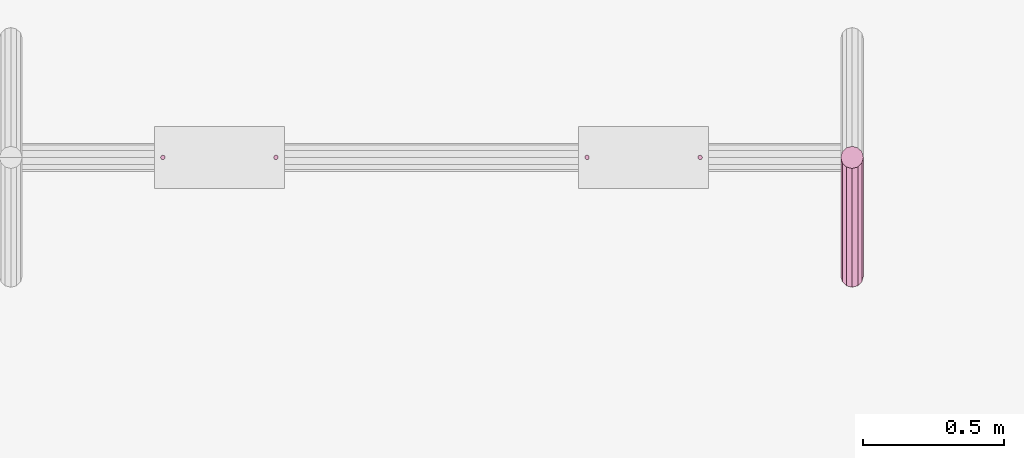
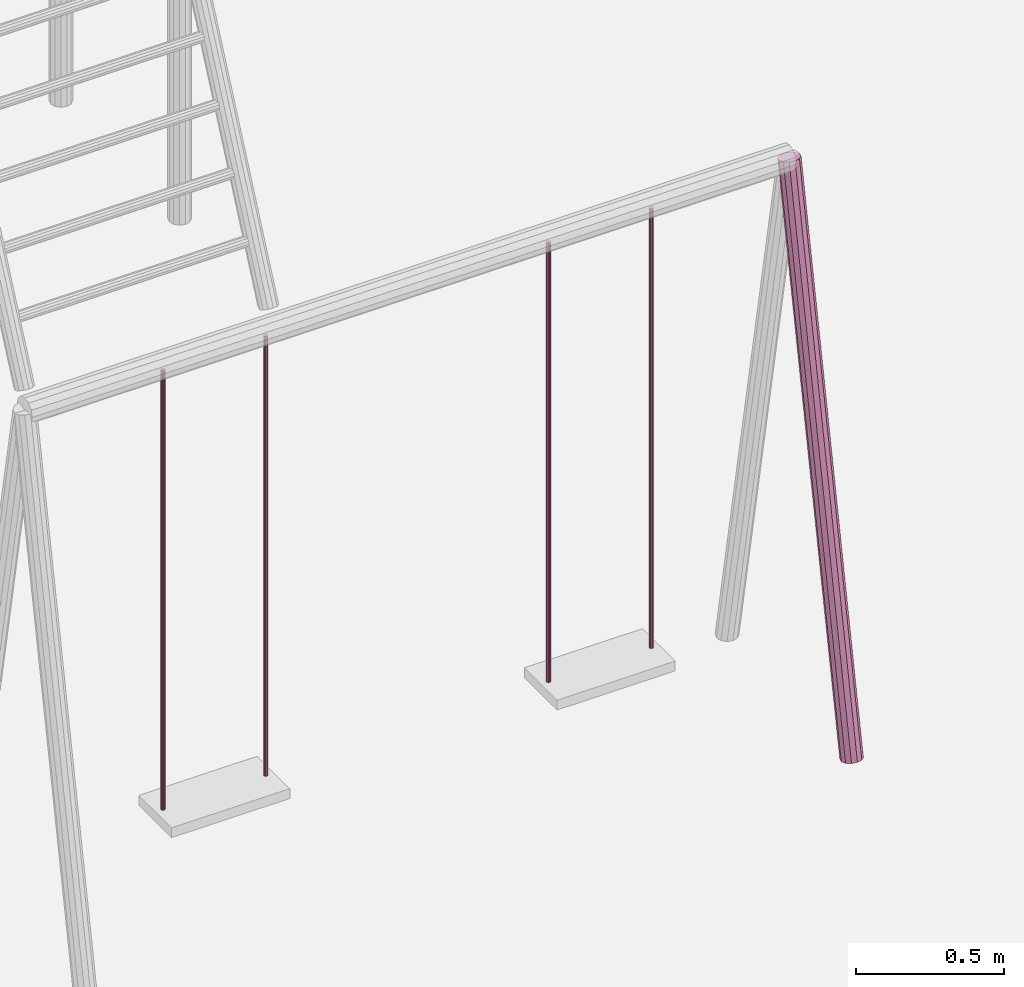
# One storey, part 137 of 166: 5 furnishings.
"""IFC2X3 building model written with IfcOpenShell, lengths in metres."""

import ifcopenshell
import ifcopenshell.guid

model = None  # the IFC model being written
_history = None  # IfcOwnerHistory: only IFC2X3 demands one
_inside = {}  # id of a spatial element -> (the spatial element, [elements in it])
_under = {}  # id of a project, library or spatial element -> (it, [spatial elements below it])
_declared = {}  # id of a project -> (the project, [libraries it declares])
_typed = {}  # id of a type object -> (the type object, [elements of that type])
_made_of = {}  # id of a material, layer set ... -> (it, [elements and type objects made of it])


def new_model(schema):
    """Start an empty IFC model of exactly this schema.

    Asked for "IFC4X3", IfcOpenShell would pick the latest addendum, in which some entities
    have other attributes; the version numbers below select the first issue.
    IFC2X3 requires an IfcOwnerHistory on every rooted entity: one is made here for all.
    """
    global model, _history
    if schema == "IFC4X3":
        model = ifcopenshell.file(schema_version=(4, 3, 0, 0))
    else:
        model = ifcopenshell.file(schema=schema)
    _inside.clear()
    _under.clear()
    _declared.clear()
    _typed.clear()
    _made_of.clear()
    _history = None
    if model.schema == "IFC2X3":
        org = make("IfcOrganization", Name="unknown")
        user = make(
            "IfcPersonAndOrganization",
            ThePerson=make("IfcPerson", FamilyName="unknown"),
            TheOrganization=org,
        )
        app = make(
            "IfcApplication",
            ApplicationDeveloper=org,
            Version="unknown",
            ApplicationFullName="unknown",
            ApplicationIdentifier="unknown",
        )
        _history = make(
            "IfcOwnerHistory",
            OwningUser=user,
            OwningApplication=app,
            ChangeAction="ADDED",
            CreationDate=0,
        )
    return model


def make(cls, **values):
    """One entity of the class cls with the attributes given. An attribute that is None is left unset."""
    return model.create_entity(
        cls, **{name: value for name, value in values.items() if value is not None}
    )


def rooted(cls, **values):
    """An entity with a GlobalId (a new one), such as an element, a storey or a relation."""
    return make(cls, GlobalId=ifcopenshell.guid.new(), OwnerHistory=_history, **values)


def si_unit(unit_type, name, prefix=None):
    """IfcSIUnit, for example si_unit("LENGTHUNIT", "METRE", prefix="MILLI")."""
    return make("IfcSIUnit", UnitType=unit_type, Prefix=prefix, Name=name)


def assignment(units):
    """IfcUnitAssignment: the units of a project."""
    return None if units is None else make("IfcUnitAssignment", Units=units)


def point(xyz):
    """IfcCartesianPoint."""
    return None if xyz is None else make("IfcCartesianPoint", Coordinates=xyz)


def direction(xyz):
    """IfcDirection."""
    return None if xyz is None else make("IfcDirection", DirectionRatios=xyz)


def frame(location, z_axis=None, x_axis=None):
    """IfcAxis2Placement3D, a coordinate frame: its origin and axes. An axis left out is left unset."""
    return make(
        "IfcAxis2Placement3D",
        Location=point(location),
        Axis=direction(z_axis),
        RefDirection=direction(x_axis),
    )


def origin():
    """The frame at (0, 0, 0) with its axes left unset."""
    return frame((0.0, 0.0, 0.0))


def origin_with_axes():
    """The frame at (0, 0, 0) with the z axis (0, 0, 1) and the x axis (1, 0, 0) written out."""
    return frame((0.0, 0.0, 0.0), z_axis=(0.0, 0.0, 1.0), x_axis=(1.0, 0.0, 0.0))


def place(relative_to, where):
    """IfcLocalPlacement: puts the frame where relative to a parent placement (None: the world)."""
    return make(
        "IfcLocalPlacement", PlacementRelTo=relative_to, RelativePlacement=where
    )


def context(
    kind, dimensions, precision=None, world=None, true_north=None, identifier=None
):
    """IfcGeometricRepresentationContext, for example the 3D "Model" context."""
    return make(
        "IfcGeometricRepresentationContext",
        ContextIdentifier=identifier,
        ContextType=kind,
        CoordinateSpaceDimension=dimensions,
        Precision=precision,
        WorldCoordinateSystem=world,
        TrueNorth=true_north,
    )


def subcontext(parent, identifier, kind, view, scale=None):
    """IfcGeometricRepresentationSubContext, for example "Body" below "Model"."""
    return make(
        "IfcGeometricRepresentationSubContext",
        ContextIdentifier=identifier,
        ContextType=kind,
        ParentContext=parent,
        TargetScale=scale,
        TargetView=view,
    )


def project(units=None, contexts=None):
    """IfcProject with its units and contexts."""
    return rooted(
        "IfcProject",
        Name="project",
        RepresentationContexts=contexts,
        UnitsInContext=assignment(units),
    )


def spatial(cls, under=None, at=None, **own):
    """A site, building, storey or space (cls), placed at a placement, below another one or the project."""
    s = rooted(cls, ObjectPlacement=at, **own)
    if under is not None:
        _under.setdefault(under.id(), (under, []))[1].append(s)
    return s


def faces_of(points, faces, orient=None, outer=None):
    """IfcFace entities. A face is a list of loops; a loop is a list of indices into points, from 0.

    orient and outer hold one flag for each loop. By default every Orientation is true, the
    first loop of a face is its IfcFaceOuterBound and the others are IfcFaceBound.
    """
    made = []
    for i, loops in enumerate(faces):
        bounds = []
        for j, loop in enumerate(loops):
            is_outer = j == 0 if outer is None else outer[i][j]
            bounds.append(
                make(
                    "IfcFaceOuterBound" if is_outer else "IfcFaceBound",
                    Bound=make("IfcPolyLoop", Polygon=[points[k] for k in loop]),
                    Orientation=True if orient is None else orient[i][j],
                )
            )
        made.append(make("IfcFace", Bounds=bounds))
    return made


def faceted_brep(points, faces, orient=None, outer=None, voids=None):
    """IfcFacetedBrep: a solid bounded by flat faces; with voids (closed shells), ...WithVoids."""
    shared = [point(p) for p in points]
    hull = make("IfcClosedShell", CfsFaces=faces_of(shared, faces, orient, outer))
    if voids is None:
        return make("IfcFacetedBrep", Outer=hull)
    return make(
        "IfcFacetedBrepWithVoids",
        Outer=hull,
        Voids=[
            make(cls, CfsFaces=faces_of(shared, fs, o, b)) for cls, fs, o, b in voids
        ],
    )


def shape(context_of_items, identifier, shape_type, items):
    """IfcShapeRepresentation: the items that make up one representation, for example the "Body"."""
    return make(
        "IfcShapeRepresentation",
        ContextOfItems=context_of_items,
        RepresentationIdentifier=identifier,
        RepresentationType=shape_type,
        Items=items,
    )


def made_of(thing, what):
    """Note that an element or type object is made of a material, layer set ...; save() writes the relation."""
    if what is not None:
        _made_of.setdefault(what.id(), (what, []))[1].append(thing)
    return thing


def element(
    cls,
    number,
    at=None,
    inside=None,
    cuts=None,
    type_object=None,
    material=None,
    context=None,
    identifier="Body",
    shape_type=None,
    held_by="IfcProductDefinitionShape",
    body=None,
    shapes=None,
    **own,
):
    """One element of the class cls, such as IfcWall. Its Tag is "e" and its number.

    at: its placement. inside: the storey or other place that contains it. cuts: it is an
    opening in that element (IfcRelVoidsElement). A single representation is given by context,
    identifier, shape_type and body (its items); several are given by shapes. held_by: the class
    of the entity that holds the representations. save() writes the other relations.
    """
    e = rooted(cls, Tag="e%d" % number, ObjectPlacement=at, **own)
    if body is not None:
        shapes = [shape(context, identifier, shape_type, body)]
    if shapes is not None:
        e.Representation = make(held_by, Representations=shapes)
    if inside is not None:
        _inside.setdefault(inside.id(), (inside, []))[1].append(e)
    if cuts is not None:
        rooted(
            "IfcRelVoidsElement", RelatingBuildingElement=cuts, RelatedOpeningElement=e
        )
    if type_object is not None:
        _typed.setdefault(type_object.id(), (type_object, []))[1].append(e)
    return made_of(e, material)


def aggregate(whole, parts):
    """IfcRelAggregates: a whole, such as a stair, and the parts it consists of."""
    return rooted("IfcRelAggregates", RelatingObject=whole, RelatedObjects=parts)


def save(model, path):
    """Write the relations noted so far, then the file.

    IfcRelAggregates (storeys below a building ...), IfcRelContainedInSpatialStructure (elements
    in a storey), IfcRelDefinesByType, IfcRelAssociatesMaterial and IfcRelDeclares: one each for
    every whole, place, type object, material and project.
    """
    for whole, parts in _under.values():
        aggregate(whole, parts)
    for where, things in _inside.values():
        rooted(
            "IfcRelContainedInSpatialStructure",
            RelatedElements=things,
            RelatingStructure=where,
        )
    for kind, things in _typed.values():
        rooted("IfcRelDefinesByType", RelatedObjects=things, RelatingType=kind)
    for what, things in _made_of.values():
        rooted("IfcRelAssociatesMaterial", RelatedObjects=things, RelatingMaterial=what)
    for by, libraries in _declared.values():
        rooted("IfcRelDeclares", RelatingContext=by, RelatedDefinitions=libraries)
    model.write(path)


model = new_model("IFC2X3")

# Units and contexts
model_context = context("Model", 3, precision=1e-05, world=origin_with_axes())
body_context = subcontext(model_context, "Body", "Model", "MODEL_VIEW")
ifc_project = project(units=[si_unit("LENGTHUNIT", "METRE"), si_unit("AREAUNIT", "SQUARE_METRE"), si_unit("VOLUMEUNIT", "CUBIC_METRE"), si_unit("PLANEANGLEUNIT", "RADIAN")], contexts=[model_context])

# Site, building, storey
site_placement = place(None, origin_with_axes())
site = spatial("IfcSite", under=ifc_project, at=site_placement, Name="Predio Los Mangos - Morales, San Martín", CompositionType="ELEMENT")
building_placement = place(site_placement, origin())
building = spatial("IfcBuilding", under=site, at=building_placement, Name="Hogar de Refugio Temporal", CompositionType="ELEMENT")
storey_placement = place(building_placement, origin())
storey = spatial("IfcBuildingStorey", under=building, at=storey_placement, Name="NIVEL 1 (NPT +0.00)", CompositionType="ELEMENT", Elevation=0.0)

# Furnishings
furnishing_1_placement = place(storey_placement, origin())
element("IfcFurnishingElement", 1, at=furnishing_1_placement, inside=storey, Name="columpio_pata", ObjectType="Mobiliario exterior / juegos", context=body_context, shape_type="Brep", body=[
    faceted_brep([(35.86, 79.2847, 0.1374), (35.86, 79.7047, 2.3574), (35.84, 79.71, 2.3564), (35.84, 79.29, 0.1364), (35.8254, 79.7243, 2.3537), (35.8254, 79.3043, 0.1337), (35.82, 79.744, 2.35), (35.82, 79.324, 0.13), (35.8254, 79.7636, 2.3463), (35.8254, 79.3436, 0.1263), (35.84, 79.778, 2.3436), (35.84, 79.358, 0.1236), (35.86, 79.7833, 2.3426), (35.86, 79.3633, 0.1226), (35.88, 79.778, 2.3436), (35.88, 79.358, 0.1236), (35.8946, 79.7636, 2.3463), (35.8946, 79.3436, 0.1263), (35.9, 79.744, 2.35), (35.9, 79.324, 0.13), (35.8946, 79.7243, 2.3537), (35.8946, 79.3043, 0.1337), (35.88, 79.71, 2.3564), (35.88, 79.29, 0.1364)], [[[0, 1, 2, 3]], [[3, 2, 4, 5]], [[5, 4, 6, 7]], [[7, 6, 8, 9]], [[9, 8, 10, 11]], [[11, 10, 12, 13]], [[13, 12, 14, 15]], [[15, 14, 16, 17]], [[17, 16, 18, 19]], [[19, 18, 20, 21]], [[2, 1, 22, 20, 18, 16, 14, 12, 10, 8, 6, 4]], [[21, 20, 22, 23]], [[23, 22, 1, 0]], [[0, 3, 5, 7, 9, 11, 13, 15, 17, 19, 21, 23]]]),
])
furnishing_2_placement = place(storey_placement, origin())
element("IfcFurnishingElement", 2, at=furnishing_2_placement, inside=storey, Name="cadena", ObjectType="Mobiliario exterior / juegos", context=body_context, shape_type="Brep", body=[
    faceted_brep([(33.4225, 79.736, 0.52), (33.4225, 79.736, 2.33), (33.4185, 79.7371, 2.33), (33.4185, 79.7371, 0.52), (33.4156, 79.74, 2.33), (33.4156, 79.74, 0.52), (33.4145, 79.744, 2.33), (33.4145, 79.744, 0.52), (33.4156, 79.748, 2.33), (33.4156, 79.748, 0.52), (33.4185, 79.7509, 2.33), (33.4185, 79.7509, 0.52), (33.4225, 79.752, 2.33), (33.4225, 79.752, 0.52), (33.4265, 79.7509, 2.33), (33.4265, 79.7509, 0.52), (33.4294, 79.748, 2.33), (33.4294, 79.748, 0.52), (33.4305, 79.744, 2.33), (33.4305, 79.744, 0.52), (33.4294, 79.74, 2.33), (33.4294, 79.74, 0.52), (33.4265, 79.7371, 2.33), (33.4265, 79.7371, 0.52)], [[[0, 1, 2, 3]], [[3, 2, 4, 5]], [[5, 4, 6, 7]], [[7, 6, 8, 9]], [[9, 8, 10, 11]], [[11, 10, 12, 13]], [[13, 12, 14, 15]], [[15, 14, 16, 17]], [[17, 16, 18, 19]], [[19, 18, 20, 21]], [[2, 1, 22, 20, 18, 16, 14, 12, 10, 8, 6, 4]], [[21, 20, 22, 23]], [[23, 22, 1, 0]], [[0, 3, 5, 7, 9, 11, 13, 15, 17, 19, 21, 23]]]),
])
furnishing_3_placement = place(storey_placement, origin())
element("IfcFurnishingElement", 3, at=furnishing_3_placement, inside=storey, Name="cadena", ObjectType="Mobiliario exterior / juegos", context=body_context, shape_type="Brep", body=[
    faceted_brep([(33.8225, 79.736, 0.52), (33.8225, 79.736, 2.33), (33.8185, 79.7371, 2.33), (33.8185, 79.7371, 0.52), (33.8156, 79.74, 2.33), (33.8156, 79.74, 0.52), (33.8145, 79.744, 2.33), (33.8145, 79.744, 0.52), (33.8156, 79.748, 2.33), (33.8156, 79.748, 0.52), (33.8185, 79.7509, 2.33), (33.8185, 79.7509, 0.52), (33.8225, 79.752, 2.33), (33.8225, 79.752, 0.52), (33.8265, 79.7509, 2.33), (33.8265, 79.7509, 0.52), (33.8294, 79.748, 2.33), (33.8294, 79.748, 0.52), (33.8305, 79.744, 2.33), (33.8305, 79.744, 0.52), (33.8294, 79.74, 2.33), (33.8294, 79.74, 0.52), (33.8265, 79.7371, 2.33), (33.8265, 79.7371, 0.52)], [[[0, 1, 2, 3]], [[3, 2, 4, 5]], [[5, 4, 6, 7]], [[7, 6, 8, 9]], [[9, 8, 10, 11]], [[11, 10, 12, 13]], [[13, 12, 14, 15]], [[15, 14, 16, 17]], [[17, 16, 18, 19]], [[19, 18, 20, 21]], [[2, 1, 22, 20, 18, 16, 14, 12, 10, 8, 6, 4]], [[21, 20, 22, 23]], [[23, 22, 1, 0]], [[0, 3, 5, 7, 9, 11, 13, 15, 17, 19, 21, 23]]]),
])
furnishing_4_placement = place(storey_placement, origin())
element("IfcFurnishingElement", 4, at=furnishing_4_placement, inside=storey, Name="cadena", ObjectType="Mobiliario exterior / juegos", context=body_context, shape_type="Brep", body=[
    faceted_brep([(34.9225, 79.736, 0.52), (34.9225, 79.736, 2.33), (34.9185, 79.7371, 2.33), (34.9185, 79.7371, 0.52), (34.9156, 79.74, 2.33), (34.9156, 79.74, 0.52), (34.9145, 79.744, 2.33), (34.9145, 79.744, 0.52), (34.9156, 79.748, 2.33), (34.9156, 79.748, 0.52), (34.9185, 79.7509, 2.33), (34.9185, 79.7509, 0.52), (34.9225, 79.752, 2.33), (34.9225, 79.752, 0.52), (34.9265, 79.7509, 2.33), (34.9265, 79.7509, 0.52), (34.9294, 79.748, 2.33), (34.9294, 79.748, 0.52), (34.9305, 79.744, 2.33), (34.9305, 79.744, 0.52), (34.9294, 79.74, 2.33), (34.9294, 79.74, 0.52), (34.9265, 79.7371, 2.33), (34.9265, 79.7371, 0.52)], [[[0, 1, 2, 3]], [[3, 2, 4, 5]], [[5, 4, 6, 7]], [[7, 6, 8, 9]], [[9, 8, 10, 11]], [[11, 10, 12, 13]], [[13, 12, 14, 15]], [[15, 14, 16, 17]], [[17, 16, 18, 19]], [[19, 18, 20, 21]], [[2, 1, 22, 20, 18, 16, 14, 12, 10, 8, 6, 4]], [[21, 20, 22, 23]], [[23, 22, 1, 0]], [[0, 3, 5, 7, 9, 11, 13, 15, 17, 19, 21, 23]]]),
])
furnishing_5_placement = place(storey_placement, origin())
element("IfcFurnishingElement", 5, at=furnishing_5_placement, inside=storey, Name="cadena", ObjectType="Mobiliario exterior / juegos", context=body_context, shape_type="Brep", body=[
    faceted_brep([(35.3225, 79.736, 0.52), (35.3225, 79.736, 2.33), (35.3185, 79.7371, 2.33), (35.3185, 79.7371, 0.52), (35.3156, 79.74, 2.33), (35.3156, 79.74, 0.52), (35.3145, 79.744, 2.33), (35.3145, 79.744, 0.52), (35.3156, 79.748, 2.33), (35.3156, 79.748, 0.52), (35.3185, 79.7509, 2.33), (35.3185, 79.7509, 0.52), (35.3225, 79.752, 2.33), (35.3225, 79.752, 0.52), (35.3265, 79.7509, 2.33), (35.3265, 79.7509, 0.52), (35.3294, 79.748, 2.33), (35.3294, 79.748, 0.52), (35.3305, 79.744, 2.33), (35.3305, 79.744, 0.52), (35.3294, 79.74, 2.33), (35.3294, 79.74, 0.52), (35.3265, 79.7371, 2.33), (35.3265, 79.7371, 0.52)], [[[0, 1, 2, 3]], [[3, 2, 4, 5]], [[5, 4, 6, 7]], [[7, 6, 8, 9]], [[9, 8, 10, 11]], [[11, 10, 12, 13]], [[13, 12, 14, 15]], [[15, 14, 16, 17]], [[17, 16, 18, 19]], [[19, 18, 20, 21]], [[2, 1, 22, 20, 18, 16, 14, 12, 10, 8, 6, 4]], [[21, 20, 22, 23]], [[23, 22, 1, 0]], [[0, 3, 5, 7, 9, 11, 13, 15, 17, 19, 21, 23]]]),
])

save(model, "model.ifc")
